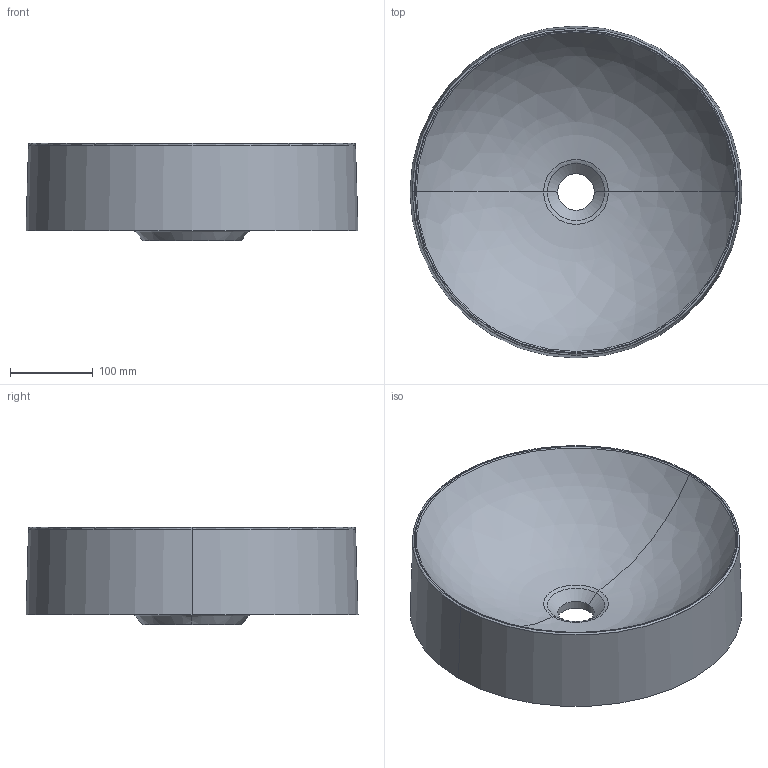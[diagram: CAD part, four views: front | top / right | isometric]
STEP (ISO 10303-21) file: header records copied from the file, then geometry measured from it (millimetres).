
FILE_DESCRIPTION(('FreeCAD Model'),'2;1');
FILE_NAME('Open CASCADE Shape Model','2024-11-19T15:13:16',('Author'),( ''),'Open CASCADE STEP processor 7.6','FreeCAD','Unknown');
FILE_SCHEMA(('AUTOMOTIVE_DESIGN { 1 0 10303 214 1 1 1 1 }'));
Length unit declared in the file: millimetre
Products named in the file (2): TopLevelAssembly; Obrót profilu
Assembly tree (1 placements, depth 2):
  TopLevelAssembly
    Obrót profilu
Bounding box: 400 x 400 x 117 mm (x, y, z)
Volume: 3444536.5 mm3; surface area: 491305.9 mm2
Topology: 1 solids, 1 shells, 28 faces, 56 edges, 28 vertices
Faces by surface type: bspline 20, plane 6, cylinder 2
Entity records: 952 total; most frequent: CARTESIAN_POINT 384, DIRECTION 118, ORIENTED_EDGE 112, EDGE_CURVE 56, AXIS2_PLACEMENT_3D 52, CIRCLE 42, ADVANCED_FACE 28, FACE_BOUND 28
